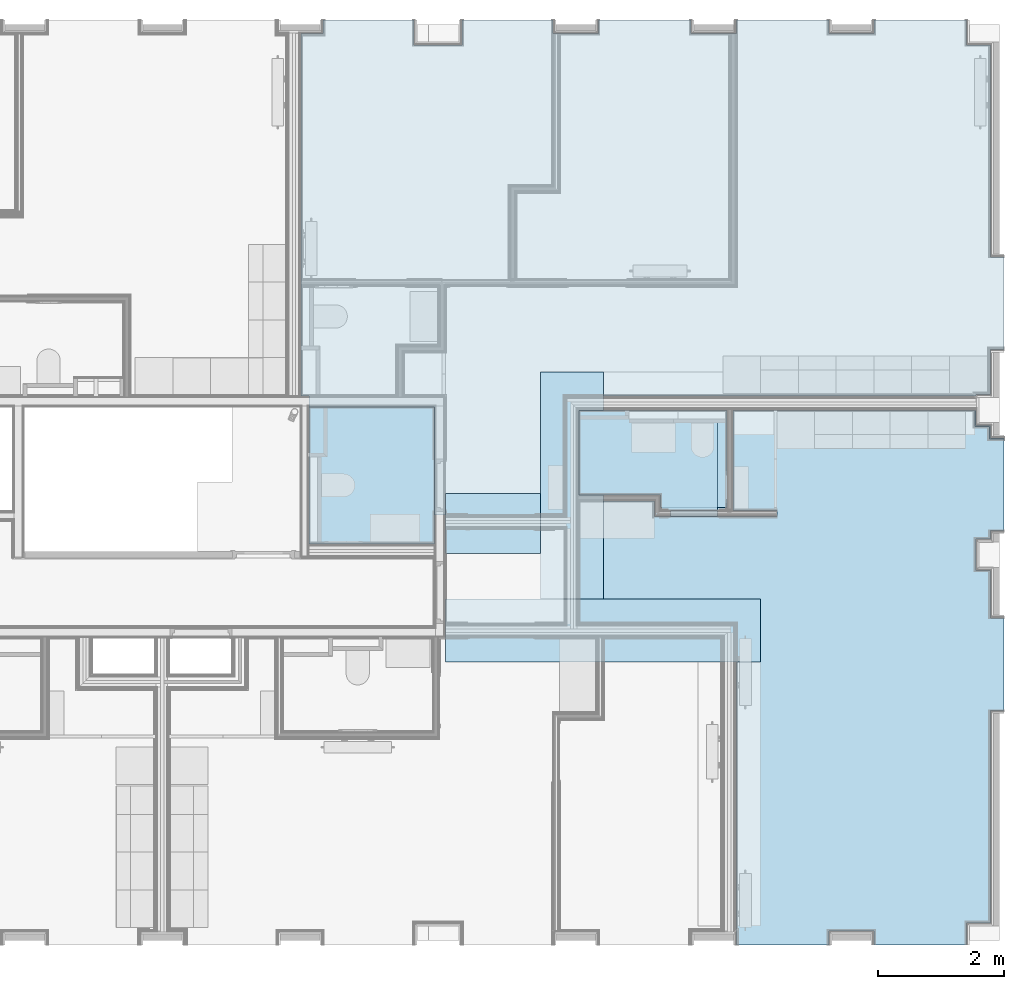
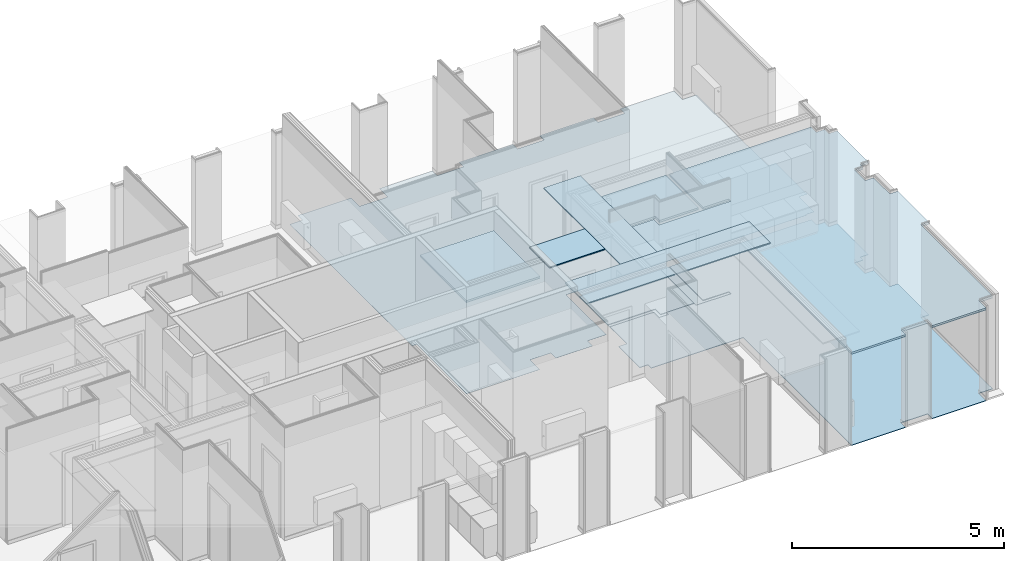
# One storey, part 45 of 64: 16 slabs.
"""IFC2X3 building model written with IfcOpenShell, lengths in metres."""

from ifc_helpers import new_model, entity, si_unit, converted_unit, derived_unit, money_unit, direction, frame, origin_with_axes, place, context, subcontext, project, spatial, faceted_brep, material, type_object, element, save


model = new_model("IFC2X3")

# Units and contexts
model_context = context("Model", 3, precision=1e-05, world=origin_with_axes(), true_north=direction((0.0, 1.0)))
body_context = subcontext(model_context, "Body", "Model", "MODEL_VIEW", scale=1.0)
ifc_project = project(units=[si_unit("LENGTHUNIT", "METRE"), si_unit("AREAUNIT", "SQUARE_METRE"), si_unit("VOLUMEUNIT", "CUBIC_METRE"), si_unit("ABSORBEDDOSEUNIT", "GRAY"), si_unit("AMOUNTOFSUBSTANCEUNIT", "MOLE"), si_unit("DOSEEQUIVALENTUNIT", "SIEVERT"), si_unit("ELECTRICCAPACITANCEUNIT", "FARAD"), si_unit("ELECTRICCHARGEUNIT", "COULOMB"), si_unit("ELECTRICCONDUCTANCEUNIT", "SIEMENS"), si_unit("ELECTRICCURRENTUNIT", "AMPERE"), si_unit("ELECTRICRESISTANCEUNIT", "OHM"), si_unit("ELECTRICVOLTAGEUNIT", "VOLT"), si_unit("ENERGYUNIT", "JOULE"), si_unit("FORCEUNIT", "NEWTON"), si_unit("FREQUENCYUNIT", "HERTZ"), si_unit("ILLUMINANCEUNIT", "LUX"), si_unit("INDUCTANCEUNIT", "HENRY"), si_unit("LUMINOUSFLUXUNIT", "LUMEN"), si_unit("LUMINOUSINTENSITYUNIT", "CANDELA"), si_unit("MAGNETICFLUXDENSITYUNIT", "TESLA"), si_unit("MAGNETICFLUXUNIT", "WEBER"), si_unit("MASSUNIT", "GRAM"), converted_unit("PLANEANGLEUNIT", "degree", entity("IfcReal", 0.0174532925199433), si_unit("PLANEANGLEUNIT", "RADIAN"), dimensions=[0, 0, 0, 0, 0, 0, 0]), si_unit("POWERUNIT", "WATT"), si_unit("PRESSUREUNIT", "PASCAL"), si_unit("RADIOACTIVITYUNIT", "BECQUEREL"), si_unit("SOLIDANGLEUNIT", "STERADIAN"), si_unit("THERMODYNAMICTEMPERATUREUNIT", "KELVIN"), si_unit("TIMEUNIT", "SECOND"), derived_unit("ACCELERATIONUNIT", [(si_unit("LENGTHUNIT", "METRE"), 1), (si_unit("TIMEUNIT", "SECOND"), -2)]), derived_unit("ANGULARVELOCITYUNIT", [(converted_unit("PLANEANGLEUNIT", "degree", entity("IfcReal", 0.0174532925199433), si_unit("PLANEANGLEUNIT", "RADIAN"), dimensions=[0, 0, 0, 0, 0, 0, 0]), 1), (si_unit("TIMEUNIT", "SECOND"), -1)]), derived_unit("CURVATUREUNIT", [(converted_unit("PLANEANGLEUNIT", "degree", entity("IfcReal", 0.0174532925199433), si_unit("PLANEANGLEUNIT", "RADIAN"), dimensions=[0, 0, 0, 0, 0, 0, 0]), 1), (si_unit("LENGTHUNIT", "METRE"), -1)]), derived_unit("DYNAMICVISCOSITYUNIT", [(si_unit("PRESSUREUNIT", "PASCAL"), 1), (si_unit("TIMEUNIT", "SECOND"), 1)]), derived_unit("HEATFLUXDENSITYUNIT", [(si_unit("POWERUNIT", "WATT"), 1), (si_unit("LENGTHUNIT", "METRE"), -2)]), derived_unit("HEATINGVALUEUNIT", [(si_unit("ENERGYUNIT", "JOULE"), 1), (si_unit("MASSUNIT", "GRAM"), -1)]), derived_unit("INTEGERCOUNTRATEUNIT", [(si_unit("TIMEUNIT", "SECOND"), -1)]), derived_unit("IONCONCENTRATIONUNIT", [(si_unit("MASSUNIT", "GRAM"), 1), (si_unit("VOLUMEUNIT", "CUBIC_METRE"), -1)]), derived_unit("ISOTHERMALMOISTURECAPACITYUNIT", [(si_unit("VOLUMEUNIT", "CUBIC_METRE"), 1), (si_unit("MASSUNIT", "GRAM"), -1)]), derived_unit("KINEMATICVISCOSITYUNIT", [(si_unit("AREAUNIT", "SQUARE_METRE"), 1), (si_unit("TIMEUNIT", "SECOND"), -1)]), derived_unit("LINEARFORCEUNIT", [(si_unit("FORCEUNIT", "NEWTON"), 1), (si_unit("LENGTHUNIT", "METRE"), -1)]), derived_unit("LINEARMOMENTUNIT", [(si_unit("FORCEUNIT", "NEWTON"), 1), (si_unit("LENGTHUNIT", "METRE"), -1)]), derived_unit("LINEARSTIFFNESSUNIT", [(si_unit("FORCEUNIT", "NEWTON"), 1), (si_unit("LENGTHUNIT", "METRE"), -1)]), derived_unit("LINEARVELOCITYUNIT", [(si_unit("LENGTHUNIT", "METRE"), 1), (si_unit("TIMEUNIT", "SECOND"), -1)]), derived_unit("LUMINOUSINTENSITYDISTRIBUTIONUNIT", [(si_unit("LUMINOUSINTENSITYUNIT", "CANDELA"), 1), (si_unit("LUMINOUSFLUXUNIT", "LUMEN"), -1)]), derived_unit("MASSDENSITYUNIT", [(si_unit("MASSUNIT", "GRAM"), 1), (si_unit("VOLUMEUNIT", "CUBIC_METRE"), -1)]), derived_unit("MASSFLOWRATEUNIT", [(si_unit("MASSUNIT", "GRAM"), 1), (si_unit("TIMEUNIT", "SECOND"), -1)]), derived_unit("MASSPERLENGTHUNIT", [(si_unit("MASSUNIT", "GRAM"), 1), (si_unit("LENGTHUNIT", "METRE"), -1)]), derived_unit("MODULUSOFELASTICITYUNIT", [(si_unit("FORCEUNIT", "NEWTON"), 1), (si_unit("AREAUNIT", "SQUARE_METRE"), -1)]), derived_unit("MODULUSOFLINEARSUBGRADEREACTIONUNIT", [(si_unit("FORCEUNIT", "NEWTON"), 1), (si_unit("LENGTHUNIT", "METRE"), -2)]), derived_unit("MODULUSOFROTATIONALSUBGRADEREACTIONUNIT", [(si_unit("FORCEUNIT", "NEWTON"), 1), (si_unit("LENGTHUNIT", "METRE"), 1)]), derived_unit("MODULUSOFSUBGRADEREACTIONUNIT", [(si_unit("FORCEUNIT", "NEWTON"), 1), (si_unit("VOLUMEUNIT", "CUBIC_METRE"), -1)]), derived_unit("MOISTUREDIFFUSIVITYUNIT", [(si_unit("VOLUMEUNIT", "CUBIC_METRE"), 1), (si_unit("TIMEUNIT", "SECOND"), -1)]), derived_unit("MOLECULARWEIGHTUNIT", [(si_unit("MASSUNIT", "GRAM"), 1), (si_unit("AMOUNTOFSUBSTANCEUNIT", "MOLE"), -1)]), derived_unit("PLANARFORCEUNIT", [(si_unit("FORCEUNIT", "NEWTON"), 1), (si_unit("LENGTHUNIT", "METRE"), -2)]), derived_unit("ROTATIONALFREQUENCYUNIT", [(si_unit("TIMEUNIT", "SECOND"), -1)]), derived_unit("ROTATIONALMASSUNIT", [(si_unit("MASSUNIT", "GRAM"), 1), (si_unit("LENGTHUNIT", "METRE"), 2)]), derived_unit("ROTATIONALSTIFFNESSUNIT", [(si_unit("FORCEUNIT", "NEWTON"), 1), (si_unit("LENGTHUNIT", "METRE"), 1), (converted_unit("PLANEANGLEUNIT", "degree", entity("IfcReal", 0.0174532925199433), si_unit("PLANEANGLEUNIT", "RADIAN"), dimensions=[0, 0, 0, 0, 0, 0, 0]), -1)]), derived_unit("SECTIONAREAINTEGRALUNIT", [(si_unit("LENGTHUNIT", "METRE"), 5)]), derived_unit("SECTIONMODULUSUNIT", [(si_unit("LENGTHUNIT", "METRE"), 3)]), derived_unit("SHEARMODULUSUNIT", [(si_unit("FORCEUNIT", "NEWTON"), 1), (si_unit("AREAUNIT", "SQUARE_METRE"), -1)]), derived_unit("SOUNDPOWERUNIT", [(si_unit("ENERGYUNIT", "JOULE"), 1), (si_unit("TIMEUNIT", "SECOND"), -1)]), derived_unit("SPECIFICHEATCAPACITYUNIT", [(si_unit("FORCEUNIT", "NEWTON"), 1), (si_unit("MASSUNIT", "GRAM"), -1), (si_unit("THERMODYNAMICTEMPERATUREUNIT", "KELVIN"), -1)]), derived_unit("TEMPERATUREGRADIENTUNIT", [(si_unit("THERMODYNAMICTEMPERATUREUNIT", "KELVIN"), 1), (si_unit("LENGTHUNIT", "METRE"), -1)]), derived_unit("THERMALADMITTANCEUNIT", [(si_unit("POWERUNIT", "WATT"), 1), (si_unit("AREAUNIT", "SQUARE_METRE"), -1), (si_unit("THERMODYNAMICTEMPERATUREUNIT", "KELVIN"), -1)]), derived_unit("THERMALCONDUCTANCEUNIT", [(si_unit("POWERUNIT", "WATT"), 1), (si_unit("LENGTHUNIT", "METRE"), -1), (si_unit("THERMODYNAMICTEMPERATUREUNIT", "KELVIN"), -1)]), derived_unit("THERMALEXPANSIONCOEFFICIENTUNIT", [(si_unit("THERMODYNAMICTEMPERATUREUNIT", "KELVIN"), -1)]), derived_unit("THERMALRESISTANCEUNIT", [(si_unit("AREAUNIT", "SQUARE_METRE"), 1), (si_unit("POWERUNIT", "WATT"), -1)]), derived_unit("THERMALTRANSMITTANCEUNIT", [(si_unit("POWERUNIT", "WATT"), 1), (si_unit("AREAUNIT", "SQUARE_METRE"), -1), (si_unit("THERMODYNAMICTEMPERATUREUNIT", "KELVIN"), -1)]), derived_unit("TORQUEUNIT", [(si_unit("FORCEUNIT", "NEWTON"), 1), (si_unit("LENGTHUNIT", "METRE"), 1)]), derived_unit("VAPORPERMEABILITYUNIT", [(si_unit("MASSUNIT", "GRAM"), 1), (si_unit("TIMEUNIT", "SECOND"), -1)]), derived_unit("VOLUMETRICFLOWRATEUNIT", [(si_unit("VOLUMEUNIT", "CUBIC_METRE"), 1), (si_unit("TIMEUNIT", "SECOND"), -1)]), derived_unit("WARPINGCONSTANTUNIT", [(si_unit("LENGTHUNIT", "METRE"), 6)]), derived_unit("WARPINGMOMENTUNIT", [(si_unit("FORCEUNIT", "NEWTON"), 1), (si_unit("LENGTHUNIT", "METRE"), 2)]), money_unit("GBP")], contexts=[model_context])

# Site, building, storey
site_placement = place(None, origin_with_axes())
site = spatial("IfcSite", under=ifc_project, at=site_placement, Name="Site", CompositionType="ELEMENT")
building_placement = place(site_placement, origin_with_axes())
building = spatial("IfcBuilding", under=site, at=building_placement, Name="Building01", CompositionType="ELEMENT")
storey_placement = place(building_placement, frame((0.0, 0.0, 8.64), z_axis=(0.0, 0.0, 1.0), x_axis=(1.0, 0.0, 0.0)))
storey = spatial("IfcBuildingStorey", under=building, at=storey_placement, Name="2F", CompositionType="ELEMENT", Elevation=8.64)

# Slabs
ifc_material_1 = material(Name="A_BSUK_ExpandedPolystyreneBoards")
slab_type_1 = type_object("IfcSlabType", Name="A-FloorsSlabs A_BSUK_Slabs", PredefinedType="FLOOR")
placement = place(storey_placement, frame((0.0, 0.0, -8.64), z_axis=(0.0, 0.0, 1.0), x_axis=(1.0, 0.0, 0.0)))
element("IfcSlab", 1, at=placement, inside=storey, type_object=slab_type_1, material=ifc_material_1, Name="A-FloorsSlabs A_BSUK_Slabs", ObjectType="CompoundSlabLeaf", context=body_context, shape_type="Brep", body=[
    faceted_brep([(15.83, 8.82, 8.64), (15.83, 8.82, 8.643), (15.708132, 8.82, 8.643), (15.708132, 8.82, 8.64), (15.83, 8.65, 8.64), (15.83, 8.65, 8.643), (15.83, 6.475, 8.64), (15.83, 6.475, 8.643), (17.83, 6.475, 8.64), (17.83, 6.475, 8.643), (17.83, 6.93, 8.64), (17.83, 6.93, 8.643), (18.0, 6.93, 8.64), (18.0, 6.93, 8.643), (18.392, 6.93, 8.64), (18.392, 6.93, 8.643), (18.392, 6.69, 8.64), (18.392, 6.69, 8.643), (19.392, 6.69, 8.64), (19.392, 6.69, 8.643), (19.392, 6.93, 8.64), (19.392, 6.93, 8.643), (19.897661, 6.93, 8.64), (19.897661, 6.93, 8.643), (19.897661, 8.82, 8.64), (19.897661, 8.82, 8.643), (26.432, 8.82, 8.64), (26.432, 8.82, 8.643), (26.432, 8.848, 8.64), (26.432, 8.848, 8.643), (26.662, 8.848, 8.64), (26.662, 8.848, 8.643), (26.662, 9.56218, 8.64), (26.662, 9.56218, 8.643), (26.88, 9.56218, 8.64), (26.88, 9.56218, 8.643), (26.88, 11.03218, 8.64), (26.88, 11.03218, 8.643), (26.662, 11.03218, 8.64), (26.662, 11.03218, 8.643), (26.662, 14.402, 8.64), (26.662, 14.402, 8.643), (26.285, 14.402, 8.64), (26.285, 14.402, 8.643), (26.285, 14.8, 8.64), (26.285, 14.8, 8.643), (24.815, 14.8, 8.64), (24.815, 14.8, 8.643), (24.815, 14.582, 8.64), (24.815, 14.582, 8.643), (24.095, 14.582, 8.64), (24.095, 14.582, 8.643), (24.095, 14.8, 8.64), (24.095, 14.8, 8.643), (22.625, 14.8, 8.64), (22.625, 14.8, 8.643), (22.625, 14.582, 8.64), (22.625, 14.582, 8.643), (21.905, 14.582, 8.64), (21.905, 14.582, 8.643), (21.905, 14.8, 8.64), (21.905, 14.8, 8.643), (20.435, 14.8, 8.64), (20.435, 14.8, 8.643), (20.435, 14.582, 8.64), (20.435, 14.582, 8.643), (19.715, 14.582, 8.64), (19.715, 14.582, 8.643), (19.715, 14.8, 8.64), (19.715, 14.8, 8.643), (18.268, 14.8, 8.64), (18.268, 14.8, 8.643), (18.268, 14.402, 8.64), (18.268, 14.402, 8.643), (17.502, 14.402, 8.64), (17.502, 14.402, 8.643), (17.502, 14.8, 8.64), (17.502, 14.8, 8.643), (16.055, 14.8, 8.64), (16.055, 14.8, 8.643), (16.055, 14.582, 8.64), (16.055, 14.582, 8.643), (15.708132, 14.582, 8.64), (15.708132, 14.582, 8.643)], [[[0, 1, 2, 3]], [[4, 5, 1, 0]], [[6, 7, 5, 4]], [[8, 9, 7, 6]], [[10, 11, 9, 8]], [[12, 13, 11, 10]], [[14, 15, 13, 12]], [[16, 17, 15, 14]], [[18, 19, 17, 16]], [[20, 21, 19, 18]], [[22, 23, 21, 20]], [[24, 25, 23, 22]], [[26, 27, 25, 24]], [[28, 29, 27, 26]], [[30, 31, 29, 28]], [[32, 33, 31, 30]], [[34, 35, 33, 32]], [[36, 37, 35, 34]], [[38, 39, 37, 36]], [[40, 41, 39, 38]], [[42, 43, 41, 40]], [[44, 45, 43, 42]], [[46, 47, 45, 44]], [[48, 49, 47, 46]], [[50, 51, 49, 48]], [[52, 53, 51, 50]], [[54, 55, 53, 52]], [[56, 57, 55, 54]], [[58, 59, 57, 56]], [[60, 61, 59, 58]], [[62, 63, 61, 60]], [[64, 65, 63, 62]], [[66, 67, 65, 64]], [[68, 69, 67, 66]], [[70, 71, 69, 68]], [[72, 73, 71, 70]], [[74, 75, 73, 72]], [[76, 77, 75, 74]], [[78, 79, 77, 76]], [[80, 81, 79, 78]], [[82, 83, 81, 80]], [[3, 2, 83, 82]], [[1, 5, 7, 9, 11, 13, 15, 17, 19, 21, 23, 25, 27, 29, 31, 33, 35, 37, 39, 41, 43, 45, 47, 49, 51, 53, 55, 57, 59, 61, 63, 65, 67, 69, 71, 73, 75, 77, 79, 81, 83, 2]], [[3, 82, 80, 78, 76, 74, 72, 70, 68, 66, 64, 62, 60, 58, 56, 54, 52, 50, 48, 46, 44, 42, 40, 38, 36, 34, 32, 30, 28, 26, 24, 22, 20, 18, 16, 14, 12, 10, 8, 6, 4, 0]]]),
])
element("IfcSlab", 2, at=placement, inside=storey, type_object=slab_type_1, material=ifc_material_1, Name="A-FloorsSlabs A_BSUK_Slabs", ObjectType="CompoundSlabLeaf", context=body_context, shape_type="Brep", body=[
    faceted_brep([(20.122661, 6.357147, 8.64), (20.122661, 6.357147, 8.643), (20.122661, 8.595, 8.643), (20.122661, 8.595, 8.64), (19.897661, 6.357147, 8.64), (19.897661, 6.357147, 8.643), (19.897661, 5.357147, 8.64), (19.897661, 5.357147, 8.643), (20.122661, 5.357147, 8.64), (20.122661, 5.357147, 8.643), (20.122661, 5.205, 8.64), (20.122661, 5.205, 8.643), (22.625, 5.205, 8.64), (22.625, 5.205, 8.643), (22.625, 0.1, 8.64), (22.625, 0.1, 8.643), (24.095, 0.1, 8.64), (24.095, 0.1, 8.643), (24.095, 0.318, 8.64), (24.095, 0.318, 8.643), (24.815, 0.318, 8.64), (24.815, 0.318, 8.643), (24.815, 0.1, 8.64), (24.815, 0.1, 8.643), (26.285, 0.1, 8.64), (26.285, 0.1, 8.643), (26.285, 0.448, 8.64), (26.285, 0.448, 8.643), (26.662, 0.448, 8.64), (26.662, 0.448, 8.643), (26.662, 3.82218, 8.64), (26.662, 3.82218, 8.643), (26.88, 3.82218, 8.64), (26.88, 3.82218, 8.643), (26.88, 5.29218, 8.64), (26.88, 5.29218, 8.643), (26.662, 5.29218, 8.64), (26.662, 5.29218, 8.643), (26.662, 6.052, 8.64), (26.662, 6.052, 8.643), (26.432, 6.052, 8.64), (26.432, 6.052, 8.643), (26.432, 6.548, 8.64), (26.432, 6.548, 8.643), (26.662, 6.548, 8.64), (26.662, 6.548, 8.643), (26.662, 6.682326, 8.64), (26.662, 6.682326, 8.643), (26.88, 6.682326, 8.64), (26.88, 6.682326, 8.643), (26.88, 8.152326, 8.64), (26.88, 8.152326, 8.643), (26.662, 8.152326, 8.64), (26.662, 8.152326, 8.643), (26.662, 8.352, 8.64), (26.662, 8.352, 8.643), (26.432, 8.352, 8.64), (26.432, 8.352, 8.643), (26.432, 8.595, 8.64), (26.432, 8.595, 8.643)], [[[0, 1, 2, 3]], [[4, 5, 1, 0]], [[6, 7, 5, 4]], [[8, 9, 7, 6]], [[10, 11, 9, 8]], [[12, 13, 11, 10]], [[14, 15, 13, 12]], [[16, 17, 15, 14]], [[18, 19, 17, 16]], [[20, 21, 19, 18]], [[22, 23, 21, 20]], [[24, 25, 23, 22]], [[26, 27, 25, 24]], [[28, 29, 27, 26]], [[30, 31, 29, 28]], [[32, 33, 31, 30]], [[34, 35, 33, 32]], [[36, 37, 35, 34]], [[38, 39, 37, 36]], [[40, 41, 39, 38]], [[42, 43, 41, 40]], [[44, 45, 43, 42]], [[46, 47, 45, 44]], [[48, 49, 47, 46]], [[50, 51, 49, 48]], [[52, 53, 51, 50]], [[54, 55, 53, 52]], [[56, 57, 55, 54]], [[58, 59, 57, 56]], [[3, 2, 59, 58]], [[1, 5, 7, 9, 11, 13, 15, 17, 19, 21, 23, 25, 27, 29, 31, 33, 35, 37, 39, 41, 43, 45, 47, 49, 51, 53, 55, 57, 59, 2]], [[3, 58, 56, 54, 52, 50, 48, 46, 44, 42, 40, 38, 36, 34, 32, 30, 28, 26, 24, 22, 20, 18, 16, 14, 12, 10, 8, 6, 4, 0]]]),
])
ifc_material_2 = material(Name="A_BSUK_Parquet_Floor")
element("IfcSlab", 3, at=placement, inside=storey, type_object=slab_type_1, material=ifc_material_2, Name="A-FloorsSlabs A_BSUK_Slabs", ObjectType="CompoundSlabLeaf", context=body_context, shape_type="Brep", body=[
    faceted_brep([(19.897661, 5.357147, 8.643), (19.897661, 5.357147, 8.655), (19.897661, 6.357147, 8.655), (19.897661, 6.357147, 8.643), (20.122661, 5.357147, 8.643), (20.122661, 5.357147, 8.655), (20.122661, 5.205, 8.643), (20.122661, 5.205, 8.655), (22.625, 5.205, 8.643), (22.625, 5.205, 8.655), (22.625, 0.1, 8.643), (22.625, 0.1, 8.655), (24.095, 0.1, 8.643), (24.095, 0.1, 8.655), (24.095, 0.318, 8.643), (24.095, 0.318, 8.655), (24.815, 0.318, 8.643), (24.815, 0.318, 8.655), (24.815, 0.1, 8.643), (24.815, 0.1, 8.655), (26.285, 0.1, 8.643), (26.285, 0.1, 8.655), (26.285, 0.448, 8.643), (26.285, 0.448, 8.655), (26.662, 0.448, 8.643), (26.662, 0.448, 8.655), (26.662, 3.82218, 8.643), (26.662, 3.82218, 8.655), (26.88, 3.82218, 8.643), (26.88, 3.82218, 8.655), (26.88, 5.29218, 8.643), (26.88, 5.29218, 8.655), (26.662, 5.29218, 8.643), (26.662, 5.29218, 8.655), (26.662, 6.052, 8.643), (26.662, 6.052, 8.655), (26.432, 6.052, 8.643), (26.432, 6.052, 8.655), (26.432, 6.548, 8.643), (26.432, 6.548, 8.655), (26.662, 6.548, 8.643), (26.662, 6.548, 8.655), (26.662, 6.682326, 8.643), (26.662, 6.682326, 8.655), (26.88, 6.682326, 8.643), (26.88, 6.682326, 8.655), (26.88, 8.152326, 8.643), (26.88, 8.152326, 8.655), (26.662, 8.152326, 8.643), (26.662, 8.152326, 8.655), (26.662, 8.352, 8.643), (26.662, 8.352, 8.655), (26.432, 8.352, 8.643), (26.432, 8.352, 8.655), (26.432, 8.595, 8.643), (26.432, 8.595, 8.655), (22.571661, 8.595, 8.643), (22.571661, 8.595, 8.655), (22.571661, 7.0, 8.643), (22.571661, 7.0, 8.655), (23.271529, 7.0, 8.643), (23.271529, 7.0, 8.655), (23.271529, 6.905, 8.643), (23.271529, 6.905, 8.655), (22.326661, 6.905, 8.643), (22.326661, 6.905, 8.655), (22.326661, 7.0, 8.643), (22.326661, 7.0, 8.655), (21.576661, 7.0, 8.643), (21.576661, 7.0, 8.655), (21.576661, 6.905, 8.643), (21.576661, 6.905, 8.655), (21.322661, 6.905, 8.643), (21.322661, 6.905, 8.655), (21.322661, 7.155, 8.643), (21.322661, 7.155, 8.655), (20.122661, 7.155, 8.643), (20.122661, 7.155, 8.655), (20.122661, 6.905, 8.643), (20.122661, 6.905, 8.655), (20.122661, 6.357147, 8.643), (20.122661, 6.357147, 8.655)], [[[0, 1, 2, 3]], [[4, 5, 1, 0]], [[6, 7, 5, 4]], [[8, 9, 7, 6]], [[10, 11, 9, 8]], [[12, 13, 11, 10]], [[14, 15, 13, 12]], [[16, 17, 15, 14]], [[18, 19, 17, 16]], [[20, 21, 19, 18]], [[22, 23, 21, 20]], [[24, 25, 23, 22]], [[26, 27, 25, 24]], [[28, 29, 27, 26]], [[30, 31, 29, 28]], [[32, 33, 31, 30]], [[34, 35, 33, 32]], [[36, 37, 35, 34]], [[38, 39, 37, 36]], [[40, 41, 39, 38]], [[42, 43, 41, 40]], [[44, 45, 43, 42]], [[46, 47, 45, 44]], [[48, 49, 47, 46]], [[50, 51, 49, 48]], [[52, 53, 51, 50]], [[54, 55, 53, 52]], [[56, 57, 55, 54]], [[58, 59, 57, 56]], [[60, 61, 59, 58]], [[62, 63, 61, 60]], [[64, 65, 63, 62]], [[66, 67, 65, 64]], [[68, 69, 67, 66]], [[70, 71, 69, 68]], [[72, 73, 71, 70]], [[74, 75, 73, 72]], [[76, 77, 75, 74]], [[78, 79, 77, 76]], [[80, 81, 79, 78]], [[3, 2, 81, 80]], [[1, 5, 7, 9, 11, 13, 15, 17, 19, 21, 23, 25, 27, 29, 31, 33, 35, 37, 39, 41, 43, 45, 47, 49, 51, 53, 55, 57, 59, 61, 63, 65, 67, 69, 71, 73, 75, 77, 79, 81, 2]], [[3, 80, 78, 76, 74, 72, 70, 68, 66, 64, 62, 60, 58, 56, 54, 52, 50, 48, 46, 44, 42, 40, 38, 36, 34, 32, 30, 28, 26, 24, 22, 20, 18, 16, 14, 12, 10, 8, 6, 4, 0]]]),
])
ifc_material_3 = material(Name="A_BSUK_Ceramic_FloorTiles")
element("IfcSlab", 4, at=placement, inside=storey, type_object=slab_type_1, material=ifc_material_3, Name="A-FloorsSlabs A_BSUK_Slabs", ObjectType="CompoundSlabLeaf", context=body_context, shape_type="Brep", body=[
    faceted_brep([(20.122661, 8.595, 8.643), (20.122661, 8.595, 8.655), (22.326661, 8.595, 8.655), (22.326661, 8.595, 8.643), (20.122661, 7.25, 8.643), (20.122661, 7.25, 8.655), (21.417661, 7.25, 8.643), (21.417661, 7.25, 8.655), (21.417661, 7.0, 8.643), (21.417661, 7.0, 8.655), (22.326661, 7.0, 8.643), (22.326661, 7.0, 8.655)], [[[0, 1, 2, 3]], [[4, 5, 1, 0]], [[6, 7, 5, 4]], [[8, 9, 7, 6]], [[10, 11, 9, 8]], [[3, 2, 11, 10]], [[1, 5, 7, 9, 11, 2]], [[3, 10, 8, 6, 4, 0]]]),
])
ifc_material_4 = material(Name="A_BSUK_CeilingSoffitFinishes_Suspended")
element("IfcSlab", 5, at=placement, inside=storey, type_object=slab_type_1, material=ifc_material_4, Name="A-FloorsSlabs A_BSUK_Slabs", ObjectType="CompoundSlabLeaf", context=body_context, shape_type="Brep", body=[
    faceted_brep([(15.83, 6.475, 11.255), (15.83, 6.475, 11.27), (15.83, 8.65, 11.27), (15.83, 8.65, 11.255), (17.83, 6.475, 11.255), (17.83, 6.475, 11.27), (17.83, 8.65, 11.255), (17.83, 8.65, 11.27)], [[[0, 1, 2, 3]], [[4, 5, 1, 0]], [[6, 7, 5, 4]], [[3, 2, 7, 6]], [[1, 5, 7, 2]], [[3, 6, 4, 0]]]),
])
element("IfcSlab", 6, at=placement, inside=storey, type_object=slab_type_1, material=ifc_material_4, Name="A-FloorsSlabs A_BSUK_Slabs", ObjectType="CompoundSlabLeaf", context=body_context, shape_type="Brep", body=[
    faceted_brep([(20.122661, 5.457147, 11.255), (20.122661, 5.457147, 11.27), (20.122661, 6.457147, 11.27), (20.122661, 6.457147, 11.255), (20.122661, 5.205, 11.255), (20.122661, 5.205, 11.27), (22.625, 5.205, 11.255), (22.625, 5.205, 11.27), (22.625, 0.1, 11.255), (22.625, 0.1, 11.27), (24.095, 0.1, 11.255), (24.095, 0.1, 11.27), (24.095, 0.318, 11.255), (24.095, 0.318, 11.27), (24.815, 0.318, 11.255), (24.815, 0.318, 11.27), (24.815, 0.1, 11.255), (24.815, 0.1, 11.27), (26.285, 0.1, 11.255), (26.285, 0.1, 11.27), (26.285, 0.448, 11.255), (26.285, 0.448, 11.27), (26.662, 0.448, 11.255), (26.662, 0.448, 11.27), (26.662, 3.82218, 11.255), (26.662, 3.82218, 11.27), (26.88, 3.82218, 11.255), (26.88, 3.82218, 11.27), (26.88, 5.29218, 11.255), (26.88, 5.29218, 11.27), (26.662, 5.29218, 11.255), (26.662, 5.29218, 11.27), (26.662, 6.052, 11.255), (26.662, 6.052, 11.27), (26.432, 6.052, 11.255), (26.432, 6.052, 11.27), (26.432, 6.548, 11.255), (26.432, 6.548, 11.27), (26.662, 6.548, 11.255), (26.662, 6.548, 11.27), (26.662, 6.682326, 11.255), (26.662, 6.682326, 11.27), (26.88, 6.682326, 11.255), (26.88, 6.682326, 11.27), (26.88, 8.137326, 11.255), (26.88, 8.137326, 11.27), (26.647, 8.137326, 11.255), (26.647, 8.137326, 11.27), (26.647, 8.337, 11.255), (26.647, 8.337, 11.27), (26.417, 8.337, 11.255), (26.417, 8.337, 11.27), (26.417, 8.595, 11.255), (26.417, 8.595, 11.27), (22.571661, 8.595, 11.255), (22.571661, 8.595, 11.27), (22.571661, 7.0, 11.255), (22.571661, 7.0, 11.27), (23.271529, 7.0, 11.255), (23.271529, 7.0, 11.27), (23.271529, 6.955, 11.255), (23.271529, 6.955, 11.27), (23.271529, 6.905, 11.255), (23.271529, 6.905, 11.27), (21.322661, 6.905, 11.255), (21.322661, 6.905, 11.27), (21.322661, 7.155, 11.255), (21.322661, 7.155, 11.27), (20.122661, 7.155, 11.255), (20.122661, 7.155, 11.27)], [[[0, 1, 2, 3]], [[4, 5, 1, 0]], [[6, 7, 5, 4]], [[8, 9, 7, 6]], [[10, 11, 9, 8]], [[12, 13, 11, 10]], [[14, 15, 13, 12]], [[16, 17, 15, 14]], [[18, 19, 17, 16]], [[20, 21, 19, 18]], [[22, 23, 21, 20]], [[24, 25, 23, 22]], [[26, 27, 25, 24]], [[28, 29, 27, 26]], [[30, 31, 29, 28]], [[32, 33, 31, 30]], [[34, 35, 33, 32]], [[36, 37, 35, 34]], [[38, 39, 37, 36]], [[40, 41, 39, 38]], [[42, 43, 41, 40]], [[44, 45, 43, 42]], [[46, 47, 45, 44]], [[48, 49, 47, 46]], [[50, 51, 49, 48]], [[52, 53, 51, 50]], [[54, 55, 53, 52]], [[56, 57, 55, 54]], [[58, 59, 57, 56]], [[60, 61, 59, 58]], [[62, 63, 61, 60]], [[64, 65, 63, 62]], [[66, 67, 65, 64]], [[68, 69, 67, 66]], [[3, 2, 69, 68]], [[1, 5, 7, 9, 11, 13, 15, 17, 19, 21, 23, 25, 27, 29, 31, 33, 35, 37, 39, 41, 43, 45, 47, 49, 51, 53, 55, 57, 59, 61, 63, 65, 67, 69, 2]], [[3, 68, 66, 64, 62, 60, 58, 56, 54, 52, 50, 48, 46, 44, 42, 40, 38, 36, 34, 32, 30, 28, 26, 24, 22, 20, 18, 16, 14, 12, 10, 8, 6, 4, 0]]]),
])
element("IfcSlab", 7, at=placement, inside=storey, type_object=slab_type_1, material=ifc_material_4, Name="A-FloorsSlabs A_BSUK_Slabs", ObjectType="CompoundSlabLeaf", context=body_context, shape_type="Brep", body=[
    faceted_brep([(20.122661, 8.595, 11.255), (20.122661, 8.595, 11.27), (22.476661, 8.595, 11.27), (22.476661, 8.595, 11.255), (20.122661, 7.25, 11.255), (20.122661, 7.25, 11.27), (21.417661, 7.25, 11.255), (21.417661, 7.25, 11.27), (21.417661, 7.05, 11.255), (21.417661, 7.05, 11.27), (22.476661, 7.05, 11.255), (22.476661, 7.05, 11.27)], [[[0, 1, 2, 3]], [[4, 5, 1, 0]], [[6, 7, 5, 4]], [[8, 9, 7, 6]], [[10, 11, 9, 8]], [[3, 2, 11, 10]], [[1, 5, 7, 9, 11, 2]], [[3, 10, 8, 6, 4, 0]]]),
])
element("IfcSlab", 8, at=placement, inside=storey, type_object=slab_type_1, material=ifc_material_4, Name="A-FloorsSlabs A_BSUK_Slabs", ObjectType="CompoundSlabLeaf", context=body_context, shape_type="Brep", body=[
    faceted_brep([(19.510161, 5.593, 11.605), (19.510161, 5.593, 11.62), (19.510161, 9.2075, 11.62), (19.510161, 9.2075, 11.605), (20.510161, 5.593, 11.605), (20.510161, 5.593, 11.62), (20.510161, 9.2075, 11.605), (20.510161, 9.2075, 11.62)], [[[0, 1, 2, 3]], [[4, 5, 1, 0]], [[6, 7, 5, 4]], [[3, 2, 7, 6]], [[1, 5, 7, 2]], [[3, 6, 4, 0]]]),
])
element("IfcSlab", 9, at=placement, inside=storey, type_object=slab_type_1, material=ifc_material_4, Name="A-FloorsSlabs A_BSUK_Slabs", ObjectType="CompoundSlabLeaf", context=body_context, shape_type="Brep", body=[
    faceted_brep([(18.0, 4.593, 11.605), (18.0, 4.593, 11.62), (18.0, 5.593, 11.62), (18.0, 5.593, 11.605), (23.0125, 4.593, 11.605), (23.0125, 4.593, 11.62), (23.0125, 5.593, 11.605), (23.0125, 5.593, 11.62)], [[[0, 1, 2, 3]], [[4, 5, 1, 0]], [[6, 7, 5, 4]], [[3, 2, 7, 6]], [[1, 5, 7, 2]], [[3, 6, 4, 0]]]),
])
element("IfcSlab", 10, at=placement, inside=storey, type_object=slab_type_1, material=ifc_material_4, Name="A-FloorsSlabs A_BSUK_Slabs", ObjectType="CompoundSlabLeaf", context=body_context, shape_type="Brep", body=[
    faceted_brep([(18.0, 6.3175, 11.605), (18.0, 6.3175, 11.62), (18.0, 7.27, 11.62), (18.0, 7.27, 11.605), (19.510161, 6.3175, 11.605), (19.510161, 6.3175, 11.62), (19.510161, 7.27, 11.605), (19.510161, 7.27, 11.62)], [[[0, 1, 2, 3]], [[4, 5, 1, 0]], [[6, 7, 5, 4]], [[3, 2, 7, 6]], [[1, 5, 7, 2]], [[3, 6, 4, 0]]]),
])
element("IfcSlab", 11, at=placement, inside=storey, type_object=slab_type_1, material=ifc_material_4, Name="A-FloorsSlabs A_BSUK_Slabs", ObjectType="CompoundSlabLeaf", context=body_context, shape_type="Brep", body=[
    faceted_brep([(19.510161, 5.593, 11.59), (19.510161, 5.593, 11.605), (19.510161, 9.2075, 11.605), (19.510161, 9.2075, 11.59), (20.510161, 5.593, 11.59), (20.510161, 5.593, 11.605), (20.510161, 9.2075, 11.59), (20.510161, 9.2075, 11.605)], [[[0, 1, 2, 3]], [[4, 5, 1, 0]], [[6, 7, 5, 4]], [[3, 2, 7, 6]], [[1, 5, 7, 2]], [[3, 6, 4, 0]]]),
])
element("IfcSlab", 12, at=placement, inside=storey, type_object=slab_type_1, material=ifc_material_4, Name="A-FloorsSlabs A_BSUK_Slabs", ObjectType="CompoundSlabLeaf", context=body_context, shape_type="Brep", body=[
    faceted_brep([(18.0, 4.593, 11.59), (18.0, 4.593, 11.605), (18.0, 5.593, 11.605), (18.0, 5.593, 11.59), (23.0125, 4.593, 11.59), (23.0125, 4.593, 11.605), (23.0125, 5.593, 11.59), (23.0125, 5.593, 11.605)], [[[0, 1, 2, 3]], [[4, 5, 1, 0]], [[6, 7, 5, 4]], [[3, 2, 7, 6]], [[1, 5, 7, 2]], [[3, 6, 4, 0]]]),
])
element("IfcSlab", 13, at=placement, inside=storey, type_object=slab_type_1, material=ifc_material_4, Name="A-FloorsSlabs A_BSUK_Slabs", ObjectType="CompoundSlabLeaf", context=body_context, shape_type="Brep", body=[
    faceted_brep([(18.0, 6.3175, 11.59), (18.0, 6.3175, 11.605), (18.0, 7.27, 11.605), (18.0, 7.27, 11.59), (19.510161, 6.3175, 11.59), (19.510161, 6.3175, 11.605), (19.510161, 7.27, 11.59), (19.510161, 7.27, 11.605)], [[[0, 1, 2, 3]], [[4, 5, 1, 0]], [[6, 7, 5, 4]], [[3, 2, 7, 6]], [[1, 5, 7, 2]], [[3, 6, 4, 0]]]),
])
slab_type_2 = type_object("IfcSlabType", Name="A-FloorsSlabs A_BSUK_ExpandedPolystyreneBoards", PredefinedType="FLOOR")
element("IfcSlab", 14, at=placement, inside=storey, type_object=slab_type_2, material=ifc_material_1, Name="A-FloorsSlabs A_BSUK_ExpandedPolystyreneBoards", ObjectType="CompoundSlabLeaf", context=body_context, shape_type="Brep", body=[
    faceted_brep([(15.83, 6.475, 11.27), (15.83, 6.475, 11.32), (15.83, 8.65, 11.32), (15.83, 8.65, 11.27), (17.83, 6.475, 11.27), (17.83, 6.475, 11.32), (17.83, 8.65, 11.27), (17.83, 8.65, 11.32)], [[[0, 1, 2, 3]], [[4, 5, 1, 0]], [[6, 7, 5, 4]], [[3, 2, 7, 6]], [[1, 5, 7, 2]], [[3, 6, 4, 0]]]),
])
element("IfcSlab", 15, at=placement, inside=storey, type_object=slab_type_2, material=ifc_material_1, Name="A-FloorsSlabs A_BSUK_ExpandedPolystyreneBoards", ObjectType="CompoundSlabLeaf", context=body_context, shape_type="Brep", body=[
    faceted_brep([(20.122661, 5.457147, 11.27), (20.122661, 5.457147, 11.32), (20.122661, 6.457147, 11.32), (20.122661, 6.457147, 11.27), (20.122661, 5.205, 11.27), (20.122661, 5.205, 11.32), (22.625, 5.205, 11.27), (22.625, 5.205, 11.32), (22.625, 0.1, 11.27), (22.625, 0.1, 11.32), (24.095, 0.1, 11.27), (24.095, 0.1, 11.32), (24.095, 0.318, 11.27), (24.095, 0.318, 11.32), (24.815, 0.318, 11.27), (24.815, 0.318, 11.32), (24.815, 0.1, 11.27), (24.815, 0.1, 11.32), (26.285, 0.1, 11.27), (26.285, 0.1, 11.32), (26.285, 0.448, 11.27), (26.285, 0.448, 11.32), (26.662, 0.448, 11.27), (26.662, 0.448, 11.32), (26.662, 3.82218, 11.27), (26.662, 3.82218, 11.32), (26.88, 3.82218, 11.27), (26.88, 3.82218, 11.32), (26.88, 5.29218, 11.27), (26.88, 5.29218, 11.32), (26.662, 5.29218, 11.27), (26.662, 5.29218, 11.32), (26.662, 6.052, 11.27), (26.662, 6.052, 11.32), (26.432, 6.052, 11.27), (26.432, 6.052, 11.32), (26.432, 6.548, 11.27), (26.432, 6.548, 11.32), (26.662, 6.548, 11.27), (26.662, 6.548, 11.32), (26.662, 6.682326, 11.27), (26.662, 6.682326, 11.32), (26.88, 6.682326, 11.27), (26.88, 6.682326, 11.32), (26.88, 8.152326, 11.27), (26.88, 8.152326, 11.32), (26.662, 8.152326, 11.27), (26.662, 8.152326, 11.32), (26.662, 8.352, 11.27), (26.662, 8.352, 11.32), (26.432, 8.352, 11.27), (26.432, 8.352, 11.32), (26.432, 8.595, 11.27), (26.432, 8.595, 11.32), (22.571661, 8.595, 11.27), (22.571661, 8.595, 11.32), (22.571661, 7.0, 11.27), (22.571661, 7.0, 11.32), (23.271529, 7.0, 11.27), (23.271529, 7.0, 11.32), (23.271529, 6.955, 11.27), (23.271529, 6.955, 11.32), (23.271529, 6.905, 11.27), (23.271529, 6.905, 11.32), (21.322661, 6.905, 11.27), (21.322661, 6.905, 11.32), (21.322661, 7.155, 11.27), (21.322661, 7.155, 11.32), (20.122661, 7.155, 11.27), (20.122661, 7.155, 11.32)], [[[0, 1, 2, 3]], [[4, 5, 1, 0]], [[6, 7, 5, 4]], [[8, 9, 7, 6]], [[10, 11, 9, 8]], [[12, 13, 11, 10]], [[14, 15, 13, 12]], [[16, 17, 15, 14]], [[18, 19, 17, 16]], [[20, 21, 19, 18]], [[22, 23, 21, 20]], [[24, 25, 23, 22]], [[26, 27, 25, 24]], [[28, 29, 27, 26]], [[30, 31, 29, 28]], [[32, 33, 31, 30]], [[34, 35, 33, 32]], [[36, 37, 35, 34]], [[38, 39, 37, 36]], [[40, 41, 39, 38]], [[42, 43, 41, 40]], [[44, 45, 43, 42]], [[46, 47, 45, 44]], [[48, 49, 47, 46]], [[50, 51, 49, 48]], [[52, 53, 51, 50]], [[54, 55, 53, 52]], [[56, 57, 55, 54]], [[58, 59, 57, 56]], [[60, 61, 59, 58]], [[62, 63, 61, 60]], [[64, 65, 63, 62]], [[66, 67, 65, 64]], [[68, 69, 67, 66]], [[3, 2, 69, 68]], [[1, 5, 7, 9, 11, 13, 15, 17, 19, 21, 23, 25, 27, 29, 31, 33, 35, 37, 39, 41, 43, 45, 47, 49, 51, 53, 55, 57, 59, 61, 63, 65, 67, 69, 2]], [[3, 68, 66, 64, 62, 60, 58, 56, 54, 52, 50, 48, 46, 44, 42, 40, 38, 36, 34, 32, 30, 28, 26, 24, 22, 20, 18, 16, 14, 12, 10, 8, 6, 4, 0]]]),
])
element("IfcSlab", 16, at=placement, inside=storey, type_object=slab_type_2, material=ifc_material_1, Name="A-FloorsSlabs A_BSUK_ExpandedPolystyreneBoards", ObjectType="CompoundSlabLeaf", context=body_context, shape_type="Brep", body=[
    faceted_brep([(20.122661, 8.595, 11.27), (20.122661, 8.595, 11.32), (22.476661, 8.595, 11.32), (22.476661, 8.595, 11.27), (20.122661, 7.25, 11.27), (20.122661, 7.25, 11.32), (21.417661, 7.25, 11.27), (21.417661, 7.25, 11.32), (21.417661, 7.05, 11.27), (21.417661, 7.05, 11.32), (22.476661, 7.05, 11.27), (22.476661, 7.05, 11.32)], [[[0, 1, 2, 3]], [[4, 5, 1, 0]], [[6, 7, 5, 4]], [[8, 9, 7, 6]], [[10, 11, 9, 8]], [[3, 2, 11, 10]], [[1, 5, 7, 9, 11, 2]], [[3, 10, 8, 6, 4, 0]]]),
])

save(model, "model.ifc")
